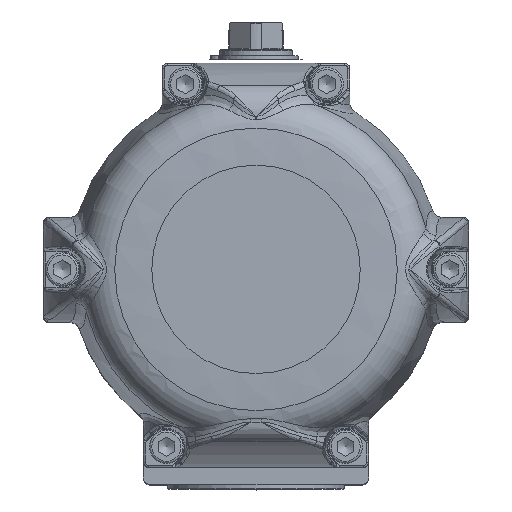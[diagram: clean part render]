
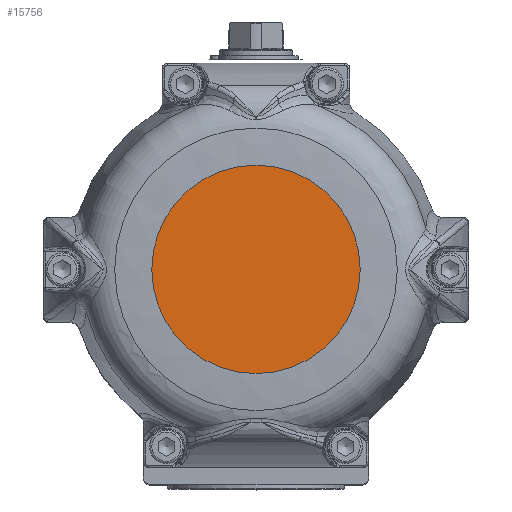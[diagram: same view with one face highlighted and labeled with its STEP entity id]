
A CAD part, top view. The second image highlights one B-rep face of the part: STEP entity #15756.
In plain terms, the highlighted planar face has unit normal (0, 0, 1).
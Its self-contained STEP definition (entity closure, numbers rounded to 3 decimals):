
#15740=CARTESIAN_POINT('',(25.,0.,182.6));
#15741=DIRECTION('',(0.0,0.0,1.0));
#15742=DIRECTION('',(-1.0,0.0,0.0));
#15743=AXIS2_PLACEMENT_3D('',#15740,#15741,#15742);
#15744=PLANE('',#15743);
#15745=CARTESIAN_POINT('',(50.,0.,182.6));
#15746=VERTEX_POINT('',#15745);
#15747=CARTESIAN_POINT('',(0.,0.,182.6));
#15748=DIRECTION('',(0.0,0.0,-1.0));
#15749=DIRECTION('',(1.0,0.0,0.0));
#15750=AXIS2_PLACEMENT_3D('',#15747,#15748,#15749);
#15751=CIRCLE('',#15750,50.0);
#15752=EDGE_CURVE('',#15746,#15746,#15751,.T.);
#15753=ORIENTED_EDGE('',*,*,#15752,.F.);
#15754=EDGE_LOOP('',(#15753));
#15755=FACE_OUTER_BOUND('',#15754,.T.);
#15756=ADVANCED_FACE('',(#15755),#15744,.T.);
